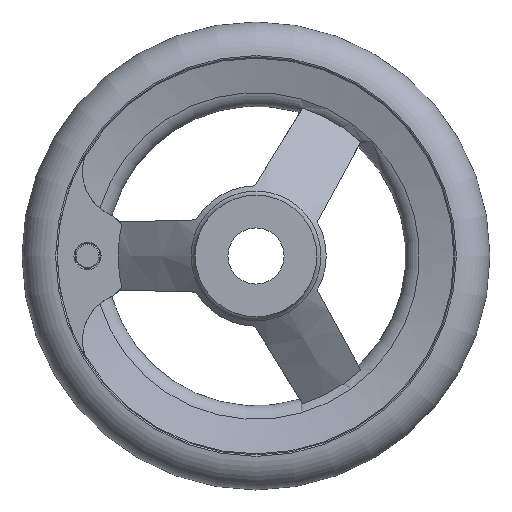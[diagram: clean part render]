
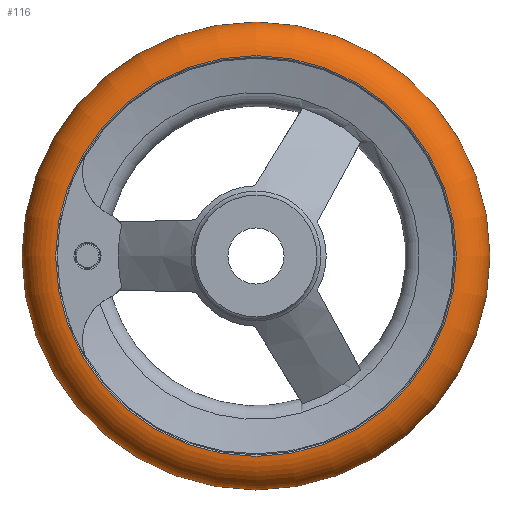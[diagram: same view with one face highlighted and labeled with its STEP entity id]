
A CAD part, left-side view. The second image highlights one B-rep face of the part: STEP entity #116.
In plain terms, the highlighted toroidal (fillet/blend) face has major radius 42.493 mm and minor radius 7.507 mm.
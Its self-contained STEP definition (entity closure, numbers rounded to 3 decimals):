
#116 = ADVANCED_FACE( '', ( #229, #230, #231 ), #232, .T. );
#229 = FACE_BOUND( '', #384, .T. );
#230 = FACE_OUTER_BOUND( '', #385, .T. );
#231 = FACE_OUTER_BOUND( '', #386, .T. );
#232 = TOROIDAL_SURFACE( '', #387, 42.493, 7.507 );
#384 = VERTEX_LOOP( '', #701 );
#385 = EDGE_LOOP( '', ( #702 ) );
#386 = EDGE_LOOP( '', ( #703 ) );
#387 = AXIS2_PLACEMENT_3D( '', #704, #705, #706 );
#701 = VERTEX_POINT( '', #828 );
#702 = ORIENTED_EDGE( '', *, *, #829, .T. );
#703 = ORIENTED_EDGE( '', *, *, #794, .F. );
#704 = CARTESIAN_POINT( '', ( 25.5, 0., 0. ) );
#705 = DIRECTION( '', ( 1., 0., 0. ) );
#706 = DIRECTION( '', ( 0., 1., 0. ) );
#794 = EDGE_CURVE( '', #947, #947, #948, .T. );
#828 = CARTESIAN_POINT( '', ( 25.5, 50., 0. ) );
#829 = EDGE_CURVE( '', #998, #998, #999, .T. );
#947 = VERTEX_POINT( '', #1419 );
#948 = CIRCLE( '', #1420, 42.813 );
#998 = VERTEX_POINT( '', #1534 );
#999 = CIRCLE( '', #1535, 42.813 );
#1419 = CARTESIAN_POINT( '', ( 33., 42.813, 0. ) );
#1420 = AXIS2_PLACEMENT_3D( '', #1620, #1621, #1622 );
#1534 = CARTESIAN_POINT( '', ( 18., 42.813, 0. ) );
#1535 = AXIS2_PLACEMENT_3D( '', #1691, #1692, #1693 );
#1620 = CARTESIAN_POINT( '', ( 33., 0., 0. ) );
#1621 = DIRECTION( '', ( 1., 0., 0. ) );
#1622 = DIRECTION( '', ( 0., 1., 0. ) );
#1691 = CARTESIAN_POINT( '', ( 18., 0., 0. ) );
#1692 = DIRECTION( '', ( 1., 0., 0. ) );
#1693 = DIRECTION( '', ( 0., 1., 0. ) );
